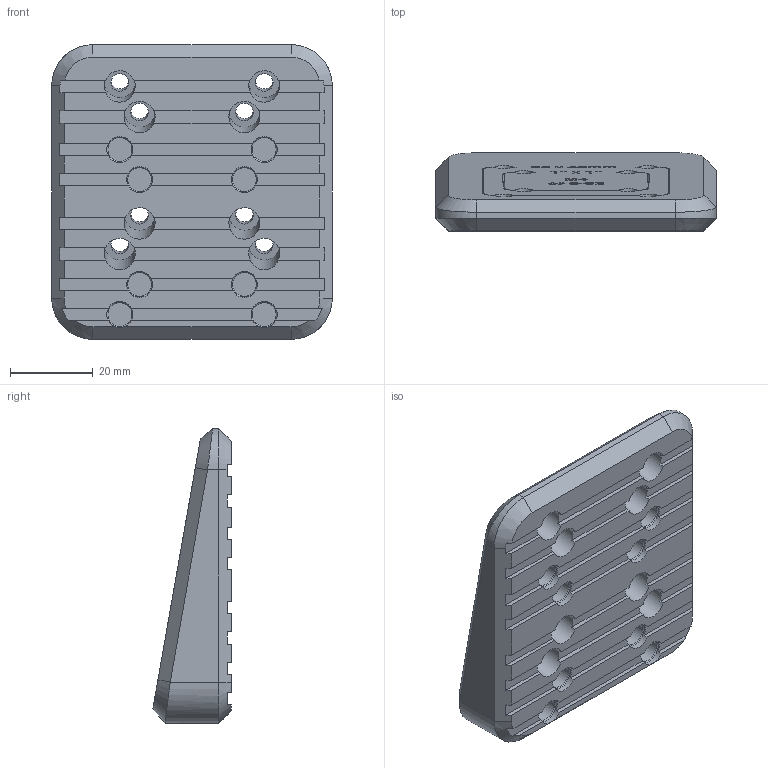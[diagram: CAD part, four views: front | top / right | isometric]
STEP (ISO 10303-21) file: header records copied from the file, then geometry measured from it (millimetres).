
FILE_DESCRIPTION (( 'STEP AP214' ), '1' );
FILE_NAME ('0729-CTF-00014-02.STEP', '2017-07-13T13:37:48', ( 'Admin' ), ( 'Microsoft' ), 'SwSTEP 2.0', 'SolidWorks 2015', '' );
FILE_SCHEMA (( 'AUTOMOTIVE_DESIGN' ));
Length unit declared in the file: millimetre
Products named in the file (2): 0729-CTF-00014-02
Bounding box: 68 x 18.97 x 71.4 mm (x, y, z)
Volume: 54267.3 mm3; surface area: 16046.1 mm2
Topology: 1 solids, 1 shells, 560 faces, 1564 edges, 1029 vertices
Faces by surface type: plane 271, bspline 221, cylinder 40, cone 28
Full cylindrical faces by diameter (mm): 4.3 x8, 5.8 x8, 6.31 x8, 7.5 x8
Entity records: 26997 total; most frequent: CARTESIAN_POINT 14580, ORIENTED_EDGE 3000, DIRECTION 1762, EDGE_CURVE 1500, VERTEX_POINT 1005, LINE 808, VECTOR 808, EDGE_LOOP 639
